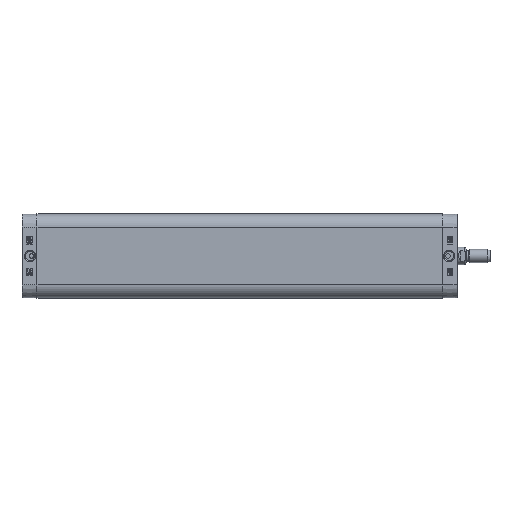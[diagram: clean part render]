
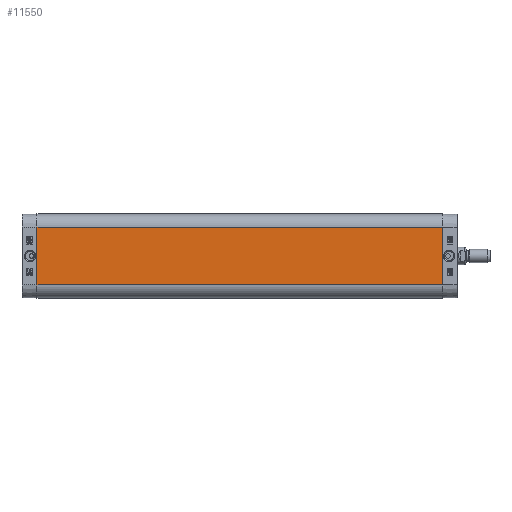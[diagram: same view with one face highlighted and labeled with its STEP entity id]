
A CAD part, left-side view. The second image highlights one B-rep face of the part: STEP entity #11550.
In plain terms, the highlighted planar face has unit normal (-1, 0, 0).
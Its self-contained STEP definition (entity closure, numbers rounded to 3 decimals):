
#5866=CARTESIAN_POINT('',(-38.5,-371.5,26.5));
#5867=VERTEX_POINT('',#5866);
#5874=CARTESIAN_POINT('',(-38.5,-371.5,-26.5));
#5875=VERTEX_POINT('',#5874);
#5876=CARTESIAN_POINT('',(-38.5,-371.5,-26.5));
#5877=DIRECTION('',(0.0,0.0,1.0));
#5878=VECTOR('',#5877,53.0);
#5879=LINE('',#5876,#5878);
#5880=EDGE_CURVE('',#5875,#5867,#5879,.T.);
#11508=CARTESIAN_POINT('',(-38.5,0.0,-26.5));
#11509=VERTEX_POINT('',#11508);
#11510=CARTESIAN_POINT('',(-38.5,0.0,-26.5));
#11511=DIRECTION('',(0.0,-1.0,0.0));
#11512=VECTOR('',#11511,371.5);
#11513=LINE('',#11510,#11512);
#11514=EDGE_CURVE('',#11509,#5875,#11513,.T.);
#11527=CARTESIAN_POINT('',(-38.5,0.0,-26.5));
#11528=DIRECTION('',(-1.0,0.0,0.0));
#11529=DIRECTION('',(0.0,0.0,1.0));
#11530=AXIS2_PLACEMENT_3D('',#11527,#11528,#11529);
#11531=PLANE('',#11530);
#11532=ORIENTED_EDGE('',*,*,#5880,.T.);
#11533=CARTESIAN_POINT('',(-38.5,0.0,26.5));
#11534=VERTEX_POINT('',#11533);
#11535=CARTESIAN_POINT('',(-38.5,0.0,26.5));
#11536=DIRECTION('',(0.0,-1.0,0.0));
#11537=VECTOR('',#11536,371.5);
#11538=LINE('',#11535,#11537);
#11539=EDGE_CURVE('',#11534,#5867,#11538,.T.);
#11540=ORIENTED_EDGE('',*,*,#11539,.F.);
#11541=CARTESIAN_POINT('',(-38.5,0.0,-26.5));
#11542=DIRECTION('',(0.0,0.0,1.0));
#11543=VECTOR('',#11542,53.0);
#11544=LINE('',#11541,#11543);
#11545=EDGE_CURVE('',#11509,#11534,#11544,.T.);
#11546=ORIENTED_EDGE('',*,*,#11545,.F.);
#11547=ORIENTED_EDGE('',*,*,#11514,.T.);
#11548=EDGE_LOOP('',(#11532,#11540,#11546,#11547));
#11549=FACE_OUTER_BOUND('',#11548,.T.);
#11550=ADVANCED_FACE('',(#11549),#11531,.T.);
